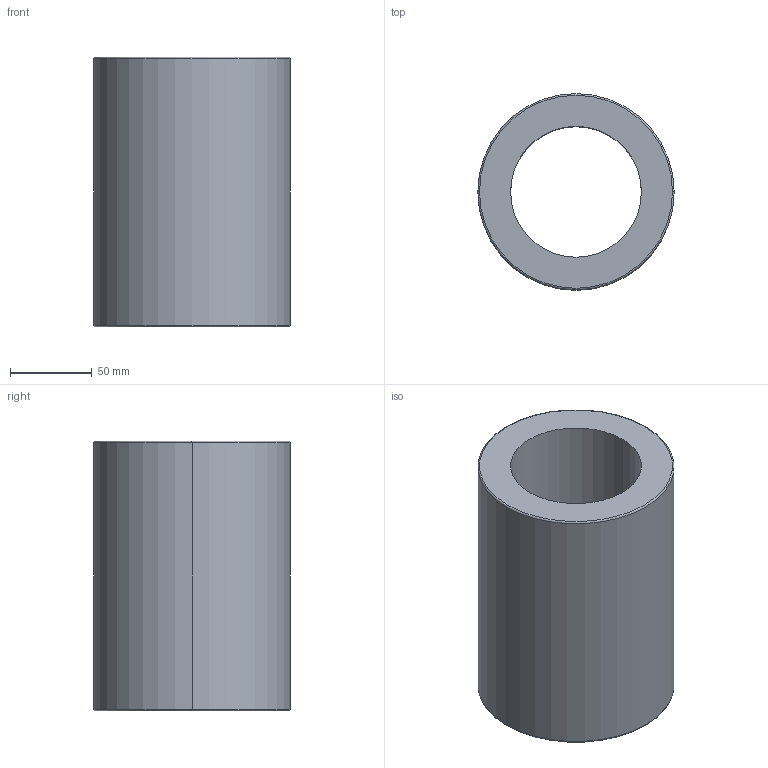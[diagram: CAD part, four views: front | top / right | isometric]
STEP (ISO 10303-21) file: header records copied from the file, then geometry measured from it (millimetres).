
FILE_DESCRIPTION (( 'STEP AP214' ), '1' );
FILE_NAME ('2.7029 Lineaarilaakeri LME80UU.STEP', '2024-06-17T10:46:14', ( '' ), ( '' ), 'SwSTEP 2.0', 'SolidWorks 2024', '' );
FILE_SCHEMA (( 'AUTOMOTIVE_DESIGN' ));
Length unit declared in the file: millimetre
Products named in the file (1): 2.7029 Lineaarilaakeri LME80UU
Bounding box: 120 x 120 x 165 mm (x, y, z)
Volume: 1036564.4 mm3; surface area: 115914.4 mm2
Topology: 1 solids, 1 shells, 10 faces, 20 edges, 12 vertices
Faces by surface type: torus 4, cylinder 4, plane 2
Entity records: 295 total; most frequent: DIRECTION 58, CARTESIAN_POINT 43, ORIENTED_EDGE 40, AXIS2_PLACEMENT_3D 27, EDGE_CURVE 20, CIRCLE 16, EDGE_LOOP 12, VERTEX_POINT 12
